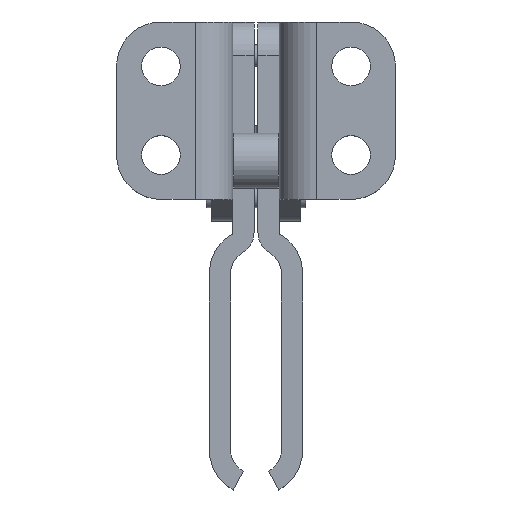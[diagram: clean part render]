
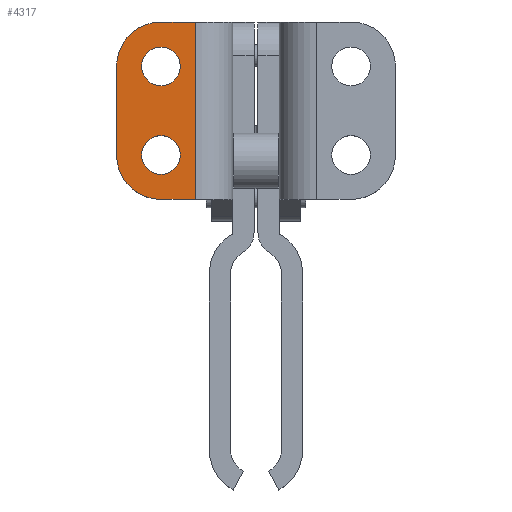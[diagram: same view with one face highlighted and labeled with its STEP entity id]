
A CAD part, top view. The second image highlights one B-rep face of the part: STEP entity #4317.
In plain terms, the highlighted planar face has unit normal (0, 0, 1).
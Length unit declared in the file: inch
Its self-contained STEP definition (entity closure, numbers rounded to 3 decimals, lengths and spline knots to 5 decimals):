
#1226=LINE('',#17170,#2535);
#1230=LINE('',#17180,#2539);
#1243=LINE('',#17230,#2552);
#1245=LINE('',#17238,#2554);
#2535=VECTOR('',#14039,1.);
#2539=VECTOR('',#14047,1.);
#2552=VECTOR('',#14096,1.);
#2554=VECTOR('',#14104,1.);
#3260=PLANE('',#11661);
#3760=FACE_OUTER_BOUND('',#5236,.T.);
#4317=ADVANCED_FACE('',(#4606,#4607,#3760),#3260,.T.);
#4606=FACE_BOUND('',#5234,.T.);
#4607=FACE_BOUND('',#5235,.T.);
#5234=EDGE_LOOP('',(#7884));
#5235=EDGE_LOOP('',(#7885));
#5236=EDGE_LOOP('',(#7886,#7887,#7888,#7889,#7890,#7891));
#7884=ORIENTED_EDGE('',*,*,#10696,.F.);
#7885=ORIENTED_EDGE('',*,*,#10697,.F.);
#7886=ORIENTED_EDGE('',*,*,#10666,.F.);
#7887=ORIENTED_EDGE('',*,*,#10698,.T.);
#7888=ORIENTED_EDGE('',*,*,#10671,.T.);
#7889=ORIENTED_EDGE('',*,*,#10699,.T.);
#7890=ORIENTED_EDGE('',*,*,#10694,.F.);
#7891=ORIENTED_EDGE('',*,*,#10700,.T.);
#9243=VERTEX_POINT('',#17169);
#9244=VERTEX_POINT('',#17171);
#9248=VERTEX_POINT('',#17181);
#9249=VERTEX_POINT('',#17182);
#9266=VERTEX_POINT('',#17229);
#9267=VERTEX_POINT('',#17231);
#9268=VERTEX_POINT('',#17235);
#9269=VERTEX_POINT('',#17237);
#10666=EDGE_CURVE('',#9243,#9244,#1226,.T.);
#10671=EDGE_CURVE('',#9248,#9249,#1230,.T.);
#10694=EDGE_CURVE('',#9266,#9267,#1243,.T.);
#10696=EDGE_CURVE('',#9268,#9268,#11024,.T.);
#10697=EDGE_CURVE('',#9269,#9269,#11025,.T.);
#10698=EDGE_CURVE('',#9243,#9248,#1245,.T.);
#10699=EDGE_CURVE('',#9249,#9267,#11026,.T.);
#10700=EDGE_CURVE('',#9266,#9244,#11027,.T.);
#11024=CIRCLE('',#11657,0.109);
#11025=CIRCLE('',#11658,0.109);
#11026=CIRCLE('',#11659,0.25);
#11027=CIRCLE('',#11660,0.25);
#11657=AXIS2_PLACEMENT_3D('',#17234,#14100,#14101);
#11658=AXIS2_PLACEMENT_3D('',#17236,#14102,#14103);
#11659=AXIS2_PLACEMENT_3D('',#17239,#14105,#14106);
#11660=AXIS2_PLACEMENT_3D('',#17240,#14107,#14108);
#11661=AXIS2_PLACEMENT_3D('',#17241,#14109,#14110);
#14039=DIRECTION('',(-1.,0.,0.));
#14047=DIRECTION('',(-1.,0.,0.));
#14096=DIRECTION('',(0.,1.,0.));
#14100=DIRECTION('',(0.,0.,1.));
#14101=DIRECTION('',(-1.,0.,0.));
#14102=DIRECTION('',(0.,0.,1.));
#14103=DIRECTION('',(-1.,0.,0.));
#14104=DIRECTION('',(0.,1.,0.));
#14105=DIRECTION('',(0.,0.,1.));
#14106=DIRECTION('',(-1.,0.,0.));
#14107=DIRECTION('',(0.,0.,1.));
#14108=DIRECTION('',(-1.,0.,0.));
#14109=DIRECTION('',(0.,0.,1.));
#14110=DIRECTION('',(-1.,0.,0.));
#17169=CARTESIAN_POINT('',(-1.231,-0.3914,2.5176));
#17170=CARTESIAN_POINT('',(-1.0184,-0.3914,2.5176));
#17171=CARTESIAN_POINT('',(-1.424,-0.3914,2.5176));
#17180=CARTESIAN_POINT('',(-1.0184,0.6086,2.5176));
#17181=CARTESIAN_POINT('',(-1.231,0.6086,2.5176));
#17182=CARTESIAN_POINT('',(-1.424,0.6086,2.5176));
#17229=CARTESIAN_POINT('',(-1.674,-0.1414,2.5176));
#17230=CARTESIAN_POINT('',(-1.674,-0.3914,2.5176));
#17231=CARTESIAN_POINT('',(-1.674,0.3586,2.5176));
#17234=CARTESIAN_POINT('',(-1.424,0.3586,2.5176));
#17235=CARTESIAN_POINT('',(-1.533,0.3586,2.5176));
#17236=CARTESIAN_POINT('',(-1.424,-0.1414,2.5176));
#17237=CARTESIAN_POINT('',(-1.533,-0.1414,2.5176));
#17238=CARTESIAN_POINT('',(-1.231,-0.3914,2.5176));
#17239=CARTESIAN_POINT('',(-1.424,0.3586,2.5176));
#17240=CARTESIAN_POINT('',(-1.424,-0.1414,2.5176));
#17241=CARTESIAN_POINT('',(-1.0184,-0.3914,2.5176));
